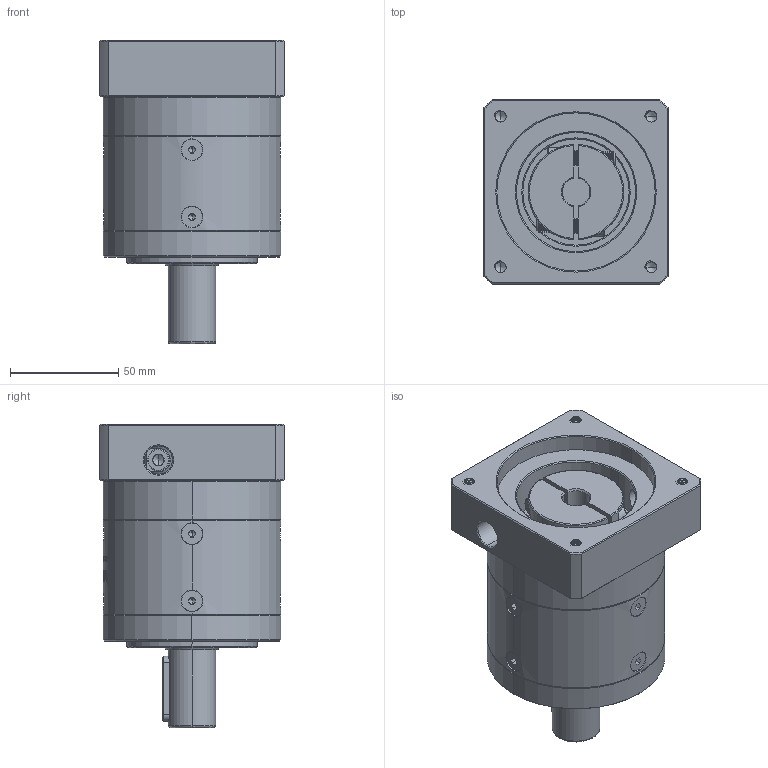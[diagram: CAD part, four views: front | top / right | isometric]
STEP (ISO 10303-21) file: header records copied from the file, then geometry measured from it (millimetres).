
FILE_DESCRIPTION (( 'STEP AP214' ), '1' );
FILE_NAME ('ZE80-D22-L1-12.7-73-69.5X69.5-M6.step', '2022-05-08T05:52:51', ( '' ), ( 'Microsoft' ), 'SwSTEP 2.0', 'SolidWorks 2016', '' );
FILE_SCHEMA (( 'AUTOMOTIVE_DESIGN' ));
Length unit declared in the file: millimetre
Products named in the file (1): ZE80-D22-L1-12.7-73-69.5X69.5-M6
Bounding box: 85 x 85 x 140 mm (x, y, z)
Volume: 521246.2 mm3; surface area: 85889 mm2
Topology: 13 solids, 13 shells, 2065 faces, 5386 edges, 3410 vertices
Faces by surface type: plane 891, cylinder 500, bspline 332, cone 325, torus 17
Entity records: 118553 total; most frequent: CARTESIAN_POINT 49497, ORIENTED_EDGE 10696, DIRECTION 8219, EDGE_CURVE 5348, VERTEX_POINT 3410, LINE 2865, VECTOR 2865, AXIS2_PLACEMENT_3D 2677
